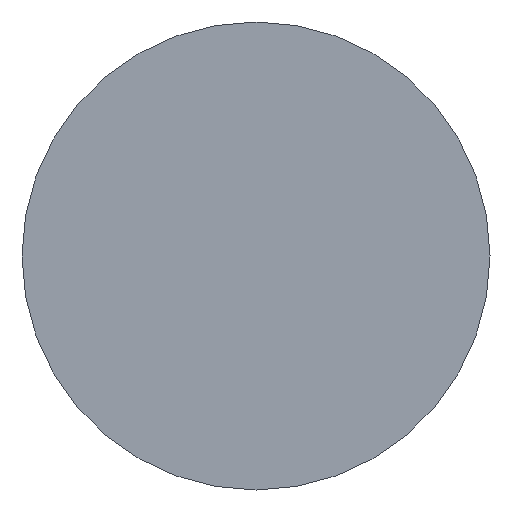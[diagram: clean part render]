
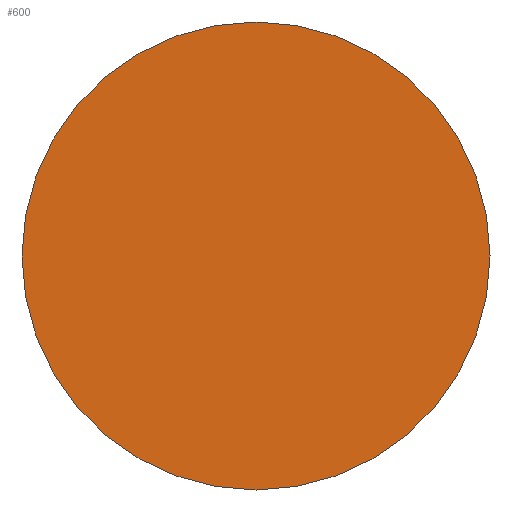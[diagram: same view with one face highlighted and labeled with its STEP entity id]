
A CAD part, front view. The second image highlights one B-rep face of the part: STEP entity #600.
In plain terms, the highlighted planar face has unit normal (0, -1, 0).
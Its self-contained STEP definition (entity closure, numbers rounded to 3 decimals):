
#77=PLANE('',#693);
#112=FACE_OUTER_BOUND('',#166,.T.);
#166=EDGE_LOOP('',(#470));
#250=CIRCLE('',#691,150.);
#305=VERTEX_POINT('',#1179);
#365=EDGE_CURVE('',#305,#305,#250,.T.);
#470=ORIENTED_EDGE('',*,*,#365,.F.);
#600=ADVANCED_FACE('',(#112),#77,.F.);
#691=AXIS2_PLACEMENT_3D('',#1181,#847,#848);
#693=AXIS2_PLACEMENT_3D('',#1183,#851,#852);
#847=DIRECTION('center_axis',(0.,1.,0.));
#848=DIRECTION('ref_axis',(1.,0.,0.));
#851=DIRECTION('center_axis',(0.,1.,0.));
#852=DIRECTION('ref_axis',(1.,0.,0.));
#1179=CARTESIAN_POINT('',(-150.,0.,0.));
#1181=CARTESIAN_POINT('Origin',(0.,0.,0.));
#1183=CARTESIAN_POINT('Origin',(0.,0.,0.));
